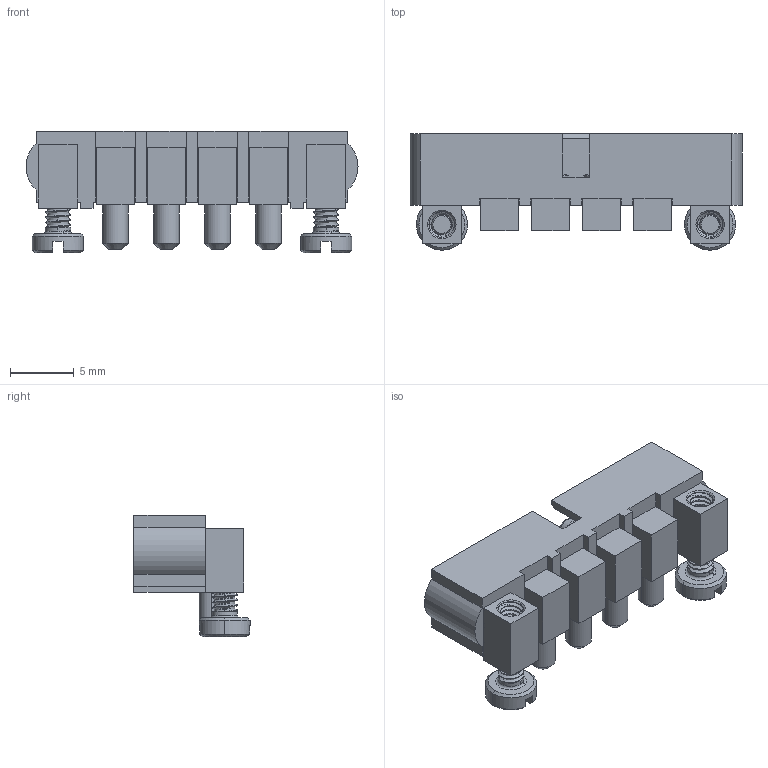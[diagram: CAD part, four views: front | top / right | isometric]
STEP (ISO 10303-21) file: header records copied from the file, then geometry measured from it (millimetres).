
FILE_DESCRIPTION((''),'2;1');
FILE_NAME('M80-5000000M5-04-PM3-00-000_ASM','2014-03-17T',('mplested'),(''),'PRO/ENGINEER BY PARAMETRIC TECHNOLOGY CORPORATION, 2012360','PRO/ENGINEER BY PARAMETRIC TECHNOLOGY CORPORATION, 2012360','');
FILE_SCHEMA(('CONFIG_CONTROL_DESIGN'));
Length unit declared in the file: millimetre
Products named in the file (5): M80-271-04-00-00; M80-2250000; M80-227; M80-PM3; M80-5000000M5-04-PM3-00-000_ASM
Assembly tree (9 placements, depth 2):
  M80-5000000M5-04-PM3-00-000_ASM
    M80-271-04-00-00
    M80-2250000  x2
    M80-227  x2
    M80-PM3  x4
Bounding box: 26 x 9.1 x 9.53 mm (x, y, z)
Volume: 780.1 mm3; surface area: 2037.6 mm2
Topology: 9 solids, 15 shells, 493 faces, 1251 edges, 796 vertices
Faces by surface type: cylinder 208, plane 131, bspline 74, cone 68, torus 12
Entity records: 20035 total; most frequent: CARTESIAN_POINT 11717, ORIENTED_EDGE 1336, DIRECTION 1135, PRESENTATION_STYLE_ASSIGNMENT 682, STYLED_ITEM 682, CURVE_STYLE 675, EDGE_CURVE 675, VERTEX_POINT 436
